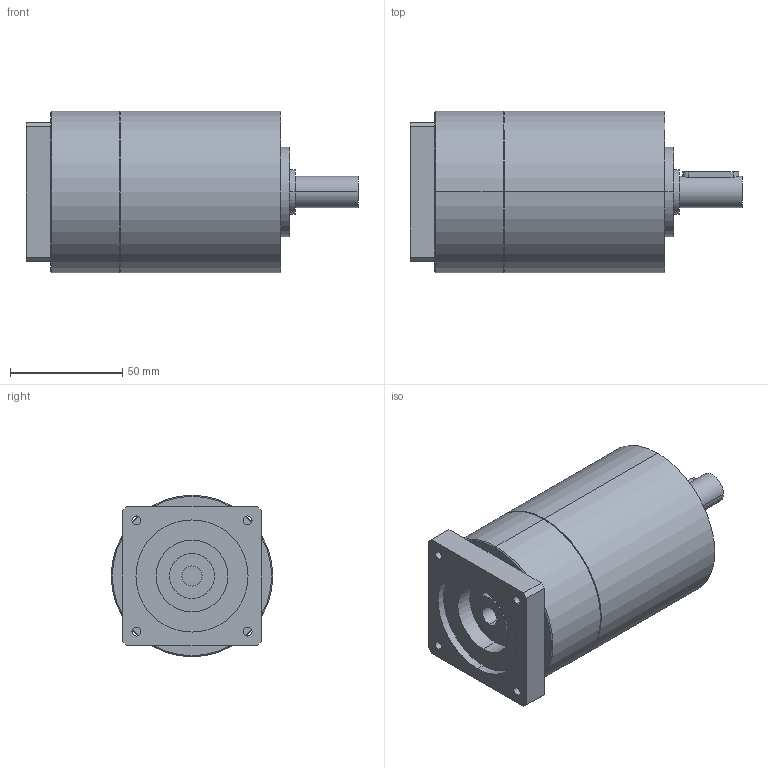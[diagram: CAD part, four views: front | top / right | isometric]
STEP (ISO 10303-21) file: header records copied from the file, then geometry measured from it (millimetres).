
FILE_DESCRIPTION(('CoCreate Modeling STEP Export'),'2;1');
FILE_NAME('GPT75_ig-9-12-16-20-25-28-35-40-50-70-100_14_B14T_9_P31.stp','2014-08-27T13:27:36',(''),(''),'CoCreate Modeling STEP processor for AP214 (Solid Model)','CoCreate Modeling 16.00C 25-Feb-2009 (C) Parametric Technology GmbH','');
FILE_SCHEMA(('AUTOMOTIVE_DESIGN { 1 0 10303 214 1 1 1 1 }'));
Length unit declared in the file: millimetre
Products named in the file (2): GPT75_ig-9-12-16-20-25-28-35-40-50-70-100_14_B14T_9_P31
Assembly tree (1 placements, depth 2):
  GPT75_ig-9-12-16-20-25-28-35-40-50-70-100_14_B14T_9_P31
    GPT75_ig-9-12-16-20-25-28-35-40-50-70-100_14_B14T_9_P31
Bounding box: 148 x 72 x 72 mm (x, y, z)
Volume: 454441.6 mm3; surface area: 40479.7 mm2
Topology: 1 solids, 1 shells, 80 faces, 198 edges, 129 vertices
Faces by surface type: cylinder 42, plane 34, cone 4
Entity records: 2353 total; most frequent: CARTESIAN_POINT 689, ORIENTED_EDGE 396, DIRECTION 276, EDGE_CURVE 198, VERTEX_POINT 129, AXIS2_PLACEMENT_3D 104, EDGE_LOOP 97, FACE_OUTER_BOUND 80
